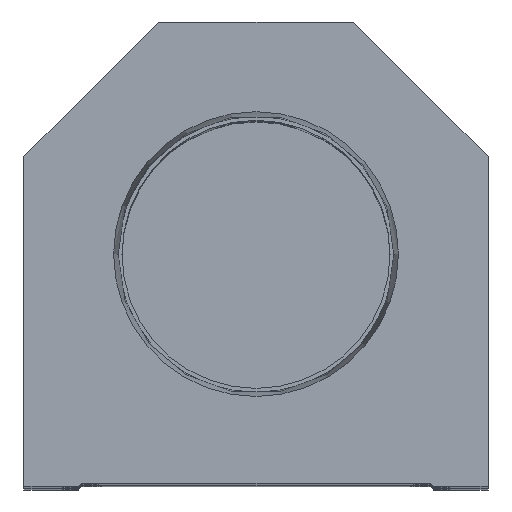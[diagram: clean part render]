
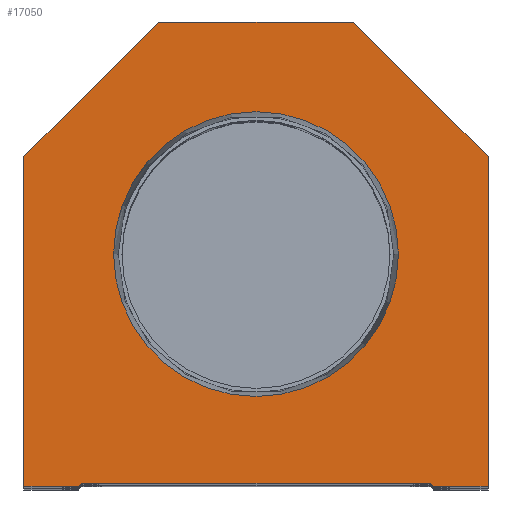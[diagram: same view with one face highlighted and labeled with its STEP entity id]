
A CAD part, top view. The second image highlights one B-rep face of the part: STEP entity #17050.
In plain terms, the highlighted planar face has unit normal (0, 0, 1).
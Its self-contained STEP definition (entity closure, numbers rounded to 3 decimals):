
#561 = LINE ( 'NONE', #2753, #19787 ) ;
#652 = DIRECTION ( 'NONE',  ( 0., 0., 1. ) ) ;
#837 = LINE ( 'NONE', #10069, #946 ) ;
#896 = LINE ( 'NONE', #17392, #17087 ) ;
#946 = VECTOR ( 'NONE', #17932, 1000. ) ;
#1143 = DIRECTION ( 'NONE',  ( 1., 0., 0. ) ) ;
#1189 = VECTOR ( 'NONE', #22193, 1000. ) ;
#1440 = ORIENTED_EDGE ( 'NONE', *, *, #5323, .T. ) ;
#1879 = LINE ( 'NONE', #9278, #1189 ) ;
#1994 = ORIENTED_EDGE ( 'NONE', *, *, #7230, .F. ) ;
#2018 = VECTOR ( 'NONE', #9855, 1000. ) ;
#2131 = AXIS2_PLACEMENT_3D ( 'NONE', #20407, #9531, #3977 ) ;
#2397 = CARTESIAN_POINT ( 'NONE',  ( 16., 76.2, 0. ) ) ;
#2501 = ORIENTED_EDGE ( 'NONE', *, *, #3305, .T. ) ;
#2753 = CARTESIAN_POINT ( 'NONE',  ( 38.1, 54.1, 0. ) ) ;
#2901 = EDGE_LOOP ( 'NONE', ( #8133, #10448, #11224, #6123, #1440, #5291, #18457, #2501, #5948, #4716 ) ) ;
#3241 = VERTEX_POINT ( 'NONE', #13067 ) ;
#3305 = EDGE_CURVE ( 'NONE', #11491, #3241, #9922, .T. ) ;
#3400 = LINE ( 'NONE', #10443, #10339 ) ;
#3494 = PLANE ( 'NONE',  #2131 ) ;
#3943 = EDGE_CURVE ( 'NONE', #13020, #8299, #15975, .T. ) ;
#3977 = DIRECTION ( 'NONE',  ( 1., 0., 0. ) ) ;
#4123 = ORIENTED_EDGE ( 'NONE', *, *, #3943, .F. ) ;
#4692 = LINE ( 'NONE', #12533, #14918 ) ;
#4716 = ORIENTED_EDGE ( 'NONE', *, *, #11713, .T. ) ;
#4846 = CARTESIAN_POINT ( 'NONE',  ( -28.6, 0.5, 0. ) ) ;
#4935 = VERTEX_POINT ( 'NONE', #18733 ) ;
#4995 = DIRECTION ( 'NONE',  ( 0.707, 0.707, 0. ) ) ;
#5291 = ORIENTED_EDGE ( 'NONE', *, *, #14597, .T. ) ;
#5323 = EDGE_CURVE ( 'NONE', #4935, #23914, #837, .T. ) ;
#5500 = VERTEX_POINT ( 'NONE', #18387 ) ;
#5948 = ORIENTED_EDGE ( 'NONE', *, *, #12782, .T. ) ;
#6123 = ORIENTED_EDGE ( 'NONE', *, *, #19034, .T. ) ;
#6304 = EDGE_LOOP ( 'NONE', ( #4123, #1994 ) ) ;
#7230 = EDGE_CURVE ( 'NONE', #8299, #13020, #10351, .T. ) ;
#8133 = ORIENTED_EDGE ( 'NONE', *, *, #17182, .T. ) ;
#8299 = VERTEX_POINT ( 'NONE', #20706 ) ;
#9048 = FACE_BOUND ( 'NONE', #6304, .T. ) ;
#9278 = CARTESIAN_POINT ( 'NONE',  ( -38.1, 0., 0. ) ) ;
#9531 = DIRECTION ( 'NONE',  ( 0., 0., 1. ) ) ;
#9752 = DIRECTION ( 'NONE',  ( 1., 0., 0. ) ) ;
#9855 = DIRECTION ( 'NONE',  ( 0., 1., 0. ) ) ;
#9857 = LINE ( 'NONE', #19036, #15162 ) ;
#9922 = LINE ( 'NONE', #14149, #14384 ) ;
#10069 = CARTESIAN_POINT ( 'NONE',  ( 28.6, 0., 0. ) ) ;
#10339 = VECTOR ( 'NONE', #4995, 1000. ) ;
#10351 = CIRCLE ( 'NONE', #18823, 23.374 ) ;
#10443 = CARTESIAN_POINT ( 'NONE',  ( -14.55, 14.55, 0. ) ) ;
#10448 = ORIENTED_EDGE ( 'NONE', *, *, #18662, .T. ) ;
#10828 = CARTESIAN_POINT ( 'NONE',  ( 14.55, 14.55, 0. ) ) ;
#10942 = DIRECTION ( 'NONE',  ( 0.707, -0.707, 0. ) ) ;
#11224 = ORIENTED_EDGE ( 'NONE', *, *, #12464, .T. ) ;
#11243 = CARTESIAN_POINT ( 'NONE',  ( -38.1, 54.1, 0. ) ) ;
#11352 = AXIS2_PLACEMENT_3D ( 'NONE', #15223, #652, #20515 ) ;
#11426 = VERTEX_POINT ( 'NONE', #20537 ) ;
#11491 = VERTEX_POINT ( 'NONE', #2397 ) ;
#11579 = DIRECTION ( 'NONE',  ( 0., 0., 1. ) ) ;
#11620 = DIRECTION ( 'NONE',  ( -0.707, 0.707, 0. ) ) ;
#11713 = EDGE_CURVE ( 'NONE', #17062, #20795, #1879, .T. ) ;
#11975 = DIRECTION ( 'NONE',  ( -1., 0., 0. ) ) ;
#12464 = EDGE_CURVE ( 'NONE', #16941, #11426, #896, .T. ) ;
#12533 = CARTESIAN_POINT ( 'NONE',  ( -28.6, 0., 0. ) ) ;
#12782 = EDGE_CURVE ( 'NONE', #3241, #17062, #9857, .T. ) ;
#13020 = VERTEX_POINT ( 'NONE', #13098 ) ;
#13067 = CARTESIAN_POINT ( 'NONE',  ( -16., 76.2, 0. ) ) ;
#13098 = CARTESIAN_POINT ( 'NONE',  ( 23.374, 38.1, 0. ) ) ;
#13363 = CARTESIAN_POINT ( 'NONE',  ( 38.1, 0., 0. ) ) ;
#13630 = CARTESIAN_POINT ( 'NONE',  ( -38.1, 0., 0. ) ) ;
#14149 = CARTESIAN_POINT ( 'NONE',  ( 16., 76.2, 0. ) ) ;
#14384 = VECTOR ( 'NONE', #11975, 1000. ) ;
#14597 = EDGE_CURVE ( 'NONE', #23914, #5500, #17242, .T. ) ;
#14918 = VECTOR ( 'NONE', #23382, 1000. ) ;
#15133 = CARTESIAN_POINT ( 'NONE',  ( 38.1, 0., 0. ) ) ;
#15162 = VECTOR ( 'NONE', #20963, 1000. ) ;
#15223 = CARTESIAN_POINT ( 'NONE',  ( 0., 38.1, 0. ) ) ;
#15332 = CARTESIAN_POINT ( 'NONE',  ( 0., 38.1, 0. ) ) ;
#15975 = CIRCLE ( 'NONE', #11352, 23.374 ) ;
#16441 = FACE_OUTER_BOUND ( 'NONE', #2901, .T. ) ;
#16941 = VERTEX_POINT ( 'NONE', #4846 ) ;
#17050 = ADVANCED_FACE ( 'NONE', ( #9048, #16441 ), #3494, .T. ) ;
#17062 = VERTEX_POINT ( 'NONE', #11243 ) ;
#17087 = VECTOR ( 'NONE', #1143, 1000. ) ;
#17182 = EDGE_CURVE ( 'NONE', #20795, #20038, #4692, .T. ) ;
#17242 = LINE ( 'NONE', #13363, #2018 ) ;
#17392 = CARTESIAN_POINT ( 'NONE',  ( -28.6, 0.5, 0. ) ) ;
#17694 = VECTOR ( 'NONE', #10942, 1000. ) ;
#17932 = DIRECTION ( 'NONE',  ( 1., 0., 0. ) ) ;
#18387 = CARTESIAN_POINT ( 'NONE',  ( 38.1, 54.1, 0. ) ) ;
#18457 = ORIENTED_EDGE ( 'NONE', *, *, #23265, .T. ) ;
#18662 = EDGE_CURVE ( 'NONE', #20038, #16941, #3400, .T. ) ;
#18733 = CARTESIAN_POINT ( 'NONE',  ( 29.1, 0., 0. ) ) ;
#18823 = AXIS2_PLACEMENT_3D ( 'NONE', #15332, #11579, #9752 ) ;
#19034 = EDGE_CURVE ( 'NONE', #11426, #4935, #20088, .T. ) ;
#19036 = CARTESIAN_POINT ( 'NONE',  ( -38.1, 54.1, 0. ) ) ;
#19787 = VECTOR ( 'NONE', #11620, 1000. ) ;
#20038 = VERTEX_POINT ( 'NONE', #23921 ) ;
#20088 = LINE ( 'NONE', #10828, #17694 ) ;
#20407 = CARTESIAN_POINT ( 'NONE',  ( 0., 0., 0. ) ) ;
#20515 = DIRECTION ( 'NONE',  ( 1., 0., 0. ) ) ;
#20537 = CARTESIAN_POINT ( 'NONE',  ( 28.6, 0.5, 0. ) ) ;
#20706 = CARTESIAN_POINT ( 'NONE',  ( -23.374, 38.1, 0. ) ) ;
#20795 = VERTEX_POINT ( 'NONE', #13630 ) ;
#20963 = DIRECTION ( 'NONE',  ( -0.707, -0.707, 0. ) ) ;
#22193 = DIRECTION ( 'NONE',  ( 0., -1., 0. ) ) ;
#23265 = EDGE_CURVE ( 'NONE', #5500, #11491, #561, .T. ) ;
#23382 = DIRECTION ( 'NONE',  ( 1., 0., 0. ) ) ;
#23914 = VERTEX_POINT ( 'NONE', #15133 ) ;
#23921 = CARTESIAN_POINT ( 'NONE',  ( -29.1, 0., 0. ) ) ;
